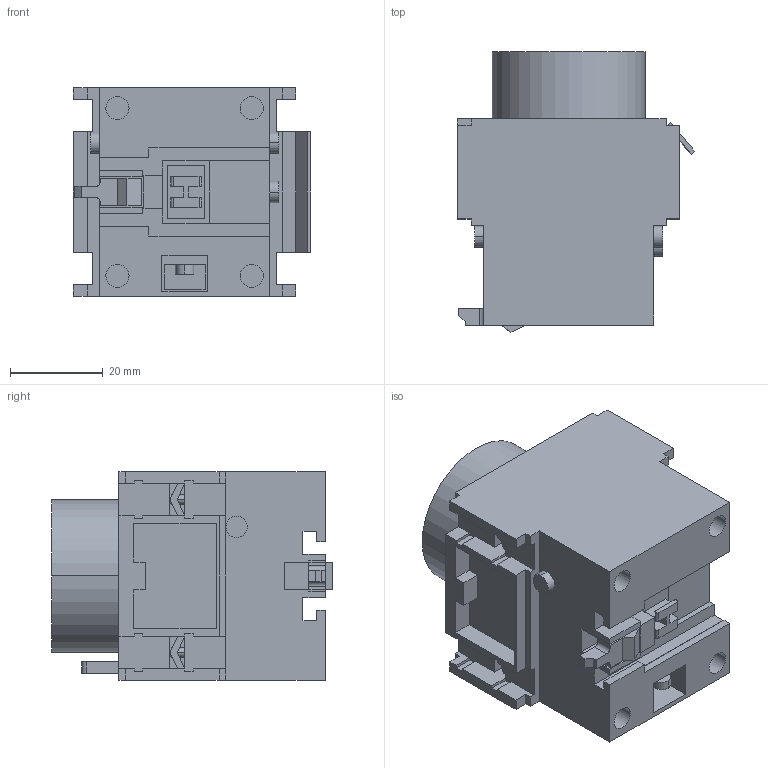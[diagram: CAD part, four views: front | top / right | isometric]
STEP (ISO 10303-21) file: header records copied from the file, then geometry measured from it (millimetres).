
FILE_DESCRIPTION (( 'STEP AP203' ), '1' );
FILE_NAME ('Ïðèñòàâêà âûäåðæêè âðåìåíè ÏÂË-23-ÓÕË4 (110668).STEP', '2015-11-19T10:43:43', ( '' ), ( '' ), 'SwSTEP 2.0', 'SolidWorks 2012', '' );
FILE_SCHEMA (( 'CONFIG_CONTROL_DESIGN' ));
Length unit declared in the file: millimetre
Products named in the file (1): Ïðèñòàâêà âûäåðæêè âðåìåíè ÏÂË-23-ÓÕË4 (110668)
Bounding box: 51.17 x 60.54 x 45 mm (x, y, z)
Volume: 84506.7 mm3; surface area: 21126 mm2
Topology: 1 solids, 1 shells, 402 faces, 1117 edges, 734 vertices
Faces by surface type: plane 346, cylinder 56
Entity records: 12762 total; most frequent: CARTESIAN_POINT 2302, ORIENTED_EDGE 2234, DIRECTION 2043, EDGE_CURVE 1117, LINE 965, VECTOR 965, VERTEX_POINT 734, AXIS2_PLACEMENT_3D 539
